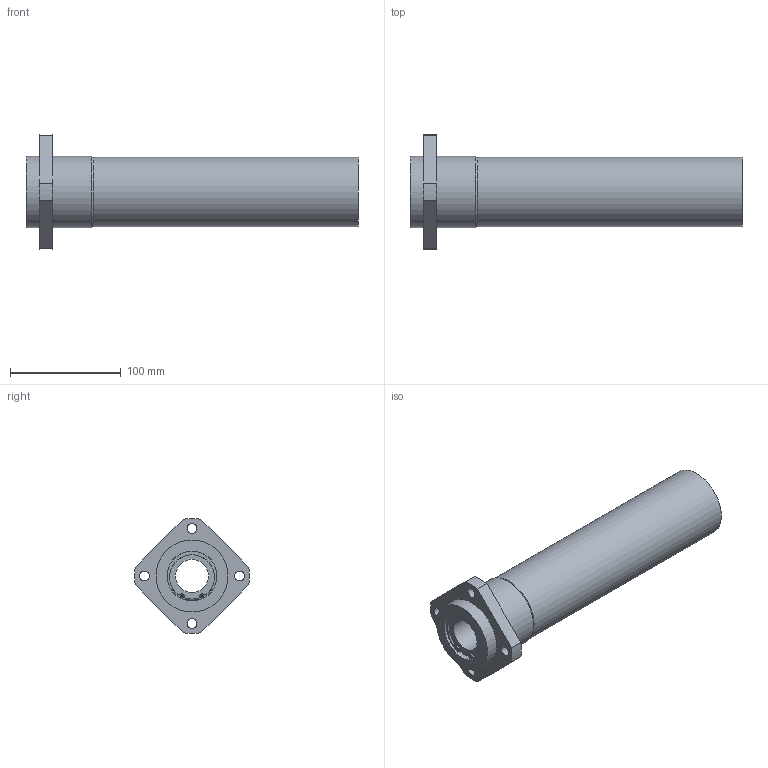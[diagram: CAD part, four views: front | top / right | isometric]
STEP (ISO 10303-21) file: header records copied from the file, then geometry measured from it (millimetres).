
FILE_DESCRIPTION((''),'2;1');
FILE_NAME('C:\Documents and Settings\土屋\My Documents\土屋移動用フォルダ\製品 (図面)\カタログ用3D\変換ファイル\OZAK_3D-CAD(STEP形式)\Part1.-Linear Bearings_ﾘﾆｱﾍﾞｱﾘﾝｸﾞ\09_Maintenance Free_ﾒｲﾝﾃﾅﾝｽﾌﾘｰ\L2017-09-22T14:05:46','2017-09-22T14:05:46',('y'),(''),'Autodesk Inventor 11','Autodesk Inventor 11','');
FILE_SCHEMA(('AUTOMOTIVE_DESIGN { 1 0 10303 214 1 1 1 1 }'));
Length unit declared in the file: millimetre
Products named in the file (1): LFWLB30BMF
Bounding box: 300 x 103.86 x 103.86 mm (x, y, z)
Volume: 766296.3 mm3; surface area: 110845.7 mm2
Topology: 1 solids, 7 shells, 97 faces, 245 edges, 152 vertices
Faces by surface type: bspline 34, cylinder 32, plane 28, torus 2, cone 1
Full cylindrical faces by diameter (mm): 2.5 x2, 9 x4, 30 x2, 41.7 x2, 43 x2, 45 x8, 63 x1, 65 x2
Entity records: 2957 total; most frequent: CARTESIAN_POINT 778, DIRECTION 468, ORIENTED_EDGE 384, AXIS2_PLACEMENT_3D 212, EDGE_CURVE 192, EDGE_LOOP 166, CIRCLE 148, VERTEX_POINT 136
